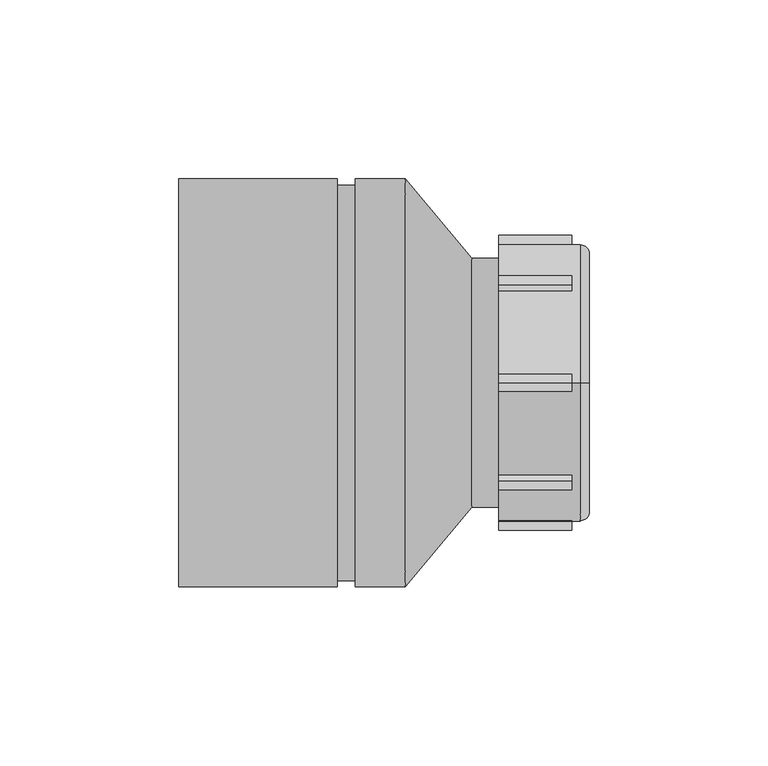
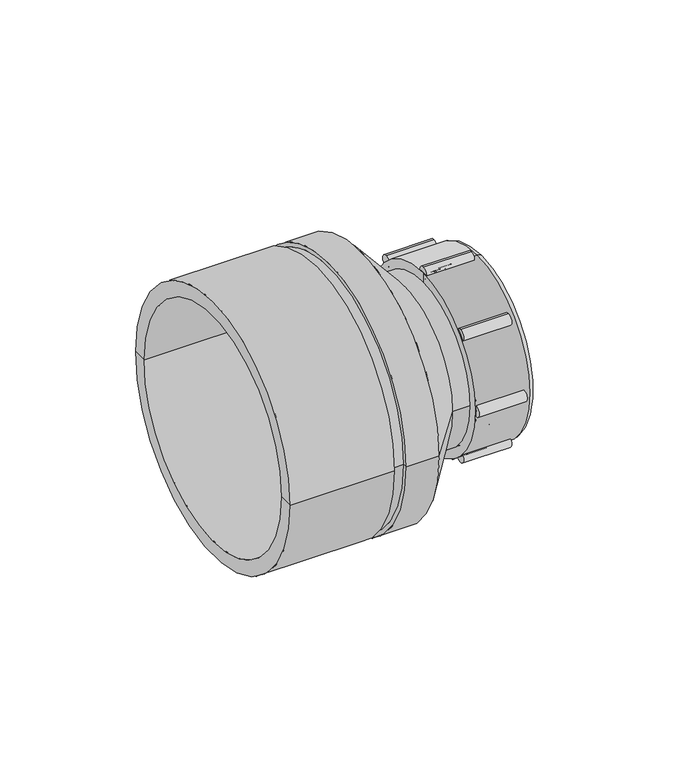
"""IFC4 building model written with IfcOpenShell, lengths in millimetres: pipe fitting geometry, Durapipe_PipeFitting_VulcatheneMechanical_ReducingCoupler_W39 : W3943_4Inxh x 3Inch_102mm x 76mm."""

from ifc_helpers import new_model, si_unit, point, frame, frame_2d, origin, place, context, project, spatial, polyline, circle_curve, ellipse_curve, trimmed, segment, composite_curve, outline, extrude, source, transform, mapped, element, save
from ifc_brep_helpers import plane_surface, cylinder_surface, revolved_surface, advanced_brep


def pipe_fitting_6652a40b(model_context):
    return source(origin(), model_context, "Body", "SolidModel", [
        advanced_brep(
        [(55.85, 22.839549, 22.839549), (55.85, 21.2839141, 21.2839141), (55.85, -21.2839141, -21.2839141), (55.85, -22.839549, -22.839549), (50.25, 22.3445743, 22.3445743), (50.25, -22.3445743, -22.3445743), (48.85, 21.9203102, 21.9203102), (50.25, 21.9203102, 21.9203102), (50.25, -21.9203102, -21.9203102), (48.85, -21.9203102, -21.9203102), (48.85, -20.9303607, -20.9303607), (48.85, 20.9303607, 20.9303607), (51.15, -20.9303607, -20.9303607), (51.15, 20.9303607, 20.9303607), (51.15, -20.647518, -20.647518), (51.15, 20.647518, 20.647518), (53.35, 21.2839141, 21.2839141), (53.35, 20.647518, 20.647518), (53.35, -20.647518, -20.647518), (53.35, -21.2839141, -21.2839141)],
        [
            (0, 1),
            (1, 2, circle_curve(frame((55.85, 0.0, 0.0), z_axis=(-1.0, 0.0, 0.0), x_axis=(0.0, -0.7071067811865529, -0.7071067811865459)), 30.1)),
            (2, 3),
            (3, 0, circle_curve(frame((55.85, 0.0, 0.0), z_axis=(1.0, 0.0, 0.0), x_axis=(0.0, -0.7071067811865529, -0.7071067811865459)), 32.3)),
            (2, 1, circle_curve(frame((55.85, 0.0, 0.0), z_axis=(-1.0, 0.0, 0.0), x_axis=(0.0, -0.7071067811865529, -0.7071067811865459)), 30.1)),
            (0, 3, circle_curve(frame((55.85, 0.0, 0.0), z_axis=(1.0, 0.0, 0.0), x_axis=(0.0, -0.7071067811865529, -0.7071067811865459)), 32.3)),
            (4, 0),
            (3, 5),
            (5, 4, circle_curve(frame((50.25, 0.0, 0.0), z_axis=(1.0, 0.0, 0.0), x_axis=(0.0, -0.7071067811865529, -0.7071067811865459)), 31.6)),
            (4, 5, circle_curve(frame((50.25, 0.0, 0.0), z_axis=(1.0, 0.0, 0.0), x_axis=(0.0, -0.7071067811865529, -0.7071067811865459)), 31.6)),
            (6, 7),
            (7, 8, circle_curve(frame((50.25, 0.0, 0.0), z_axis=(-1.0, 0.0, 0.0), x_axis=(0.0, -0.7071067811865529, -0.7071067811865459)), 31.0)),
            (8, 9),
            (9, 6, circle_curve(frame((48.85, 0.0, 0.0), z_axis=(1.0, 0.0, 0.0), x_axis=(0.0, -0.7071067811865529, -0.7071067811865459)), 31.0)),
            (8, 7, circle_curve(frame((50.25, 0.0, 0.0), z_axis=(-1.0, 0.0, 0.0), x_axis=(0.0, -0.7071067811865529, -0.7071067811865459)), 31.0)),
            (6, 9, circle_curve(frame((48.85, 0.0, 0.0), z_axis=(1.0, 0.0, 0.0), x_axis=(0.0, -0.7071067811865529, -0.7071067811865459)), 31.0)),
            (9, 10),
            (10, 11, circle_curve(frame((48.85, 0.0, 0.0), z_axis=(1.0, 0.0, 0.0), x_axis=(0.0, -0.7071067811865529, -0.7071067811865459)), 29.6)),
            (11, 6),
            (11, 10, circle_curve(frame((48.85, 0.0, 0.0), z_axis=(1.0, 0.0, 0.0), x_axis=(0.0, -0.7071067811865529, -0.7071067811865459)), 29.6)),
            (10, 12),
            (12, 13, circle_curve(frame((51.15, 0.0, 0.0), z_axis=(1.0, 0.0, 0.0), x_axis=(0.0, -0.7071067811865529, -0.7071067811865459)), 29.6)),
            (13, 11),
            (13, 12, circle_curve(frame((51.15, 0.0, 0.0), z_axis=(1.0, 0.0, 0.0), x_axis=(0.0, -0.7071067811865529, -0.7071067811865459)), 29.6)),
            (12, 14),
            (14, 15, circle_curve(frame((51.15, 0.0, 0.0), z_axis=(1.0, 0.0, 0.0), x_axis=(0.0, -0.7071067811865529, -0.7071067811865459)), 29.2)),
            (15, 13),
            (15, 14, circle_curve(frame((51.15, 0.0, 0.0), z_axis=(1.0, 0.0, 0.0), x_axis=(0.0, -0.7071067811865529, -0.7071067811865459)), 29.2)),
            (16, 17),
            (17, 18, circle_curve(frame((53.35, 0.0, 0.0), z_axis=(-1.0, 0.0, 0.0), x_axis=(0.0, -0.7071067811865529, -0.7071067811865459)), 29.2)),
            (18, 19),
            (19, 16, circle_curve(frame((53.35, 0.0, 0.0), z_axis=(1.0, 0.0, 0.0), x_axis=(0.0, -0.7071067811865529, -0.7071067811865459)), 30.1)),
            (18, 17, circle_curve(frame((53.35, 0.0, 0.0), z_axis=(-1.0, 0.0, 0.0), x_axis=(0.0, -0.7071067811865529, -0.7071067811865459)), 29.2)),
            (16, 19, circle_curve(frame((53.35, 0.0, 0.0), z_axis=(1.0, 0.0, 0.0), x_axis=(0.0, -0.7071067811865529, -0.7071067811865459)), 30.1)),
            (1, 16),
            (19, 2),
            (14, 18),
            (17, 15),
            (5, 8),
            (7, 4),
        ],
        [
            plane_surface(frame((55.85, 0.0, 0.0), z_axis=(1.0, 0.0, 0.0), x_axis=(0.0, -0.707106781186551, -0.707106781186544))),
            revolved_surface(polyline([(55.85, -22.839549, -22.839549), (50.25, -22.3445743, -22.3445743)]), (60.85, 0.0, 0.0), (-1.0000000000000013, 0.0, 0.0)),
            cylinder_surface(frame((46.7793443, 0.0, 0.0), z_axis=(-1.0000000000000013, 0.0, 0.0), x_axis=(0.0, -0.7071067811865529, -0.7071067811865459)), 31.0),
            plane_surface(frame((48.85, 0.0, 0.0), z_axis=(-1.0, 0.0, 0.0), x_axis=(0.0, -0.707106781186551, -0.707106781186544))),
            revolved_surface(polyline([(48.85000000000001, -20.930360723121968, -20.93036072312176), (51.15000000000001, -20.930360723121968, -20.93036072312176)]), (45.357009, 0.0, 0.0), (-1.0000000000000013, 0.0, 0.0)),
            plane_surface(frame((51.15, 0.0, 0.0), z_axis=(-1.0, 0.0, 0.0), x_axis=(0.0, -0.707106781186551, -0.707106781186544))),
            plane_surface(frame((53.35, 0.0, 0.0), z_axis=(1.0, 0.0, 0.0), x_axis=(0.0, -0.707106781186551, -0.707106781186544))),
            revolved_surface(polyline([(53.34999999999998, -21.283914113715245, -21.28391411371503), (55.84999999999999, -21.283914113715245, -21.28391411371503)]), (60.85, 0.0, 0.0), (-1.0000000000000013, 0.0, 0.0)),
            revolved_surface(polyline([(51.149999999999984, -20.647518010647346, -20.64751801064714), (53.349999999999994, -20.647518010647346, -20.64751801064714)]), (57.4161924, 0.0, 0.0), (-1.0000000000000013, 0.0, 0.0)),
            plane_surface(frame((50.25, 0.0, 0.0), z_axis=(-1.0, 0.0, 0.0), x_axis=(0.0, -0.707106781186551, -0.707106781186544))),
        ],
        [
            (0, [[1, 2, 3, 4]]),
            (0, [[5, -1, 6, -3]]),
            (1, [[7, -4, 8, 9]]),
            (1, [[-8, -6, -7, 10]]),
            (2, [[11, 12, 13, 14]]),
            (2, [[15, -11, 16, -13]]),
            (3, [[17, 18, 19, -14]]),
            (3, [[-19, 20, -17, -16]]),
            (4, [[-18, 21, 22, 23]]),
            (4, [[24, -21, -20, -23]]),
            (5, [[25, 26, 27, -22]]),
            (5, [[-27, 28, -25, -24]]),
            (6, [[29, 30, 31, 32]]),
            (6, [[-31, 33, -29, 34]]),
            (7, [[35, -32, 36, -2]]),
            (7, [[-36, -34, -35, -5]]),
            (8, [[-26, 37, -30, 38]]),
            (8, [[-33, -37, -28, -38]]),
            (9, [[39, -12, 40, -9]]),
            (9, [[-40, -15, -39, -10]]),
        ],
    ),
        advanced_brep(
        [(34.35, 0.0, 38.8), (57.25, 0.0, 38.8), (57.25, 0.0, -38.8), (34.35, 0.0, -38.8), (34.35, 0.0, 33.0), (34.35, 0.0, -33.0), (59.75, 0.0, 36.3), (59.75, 0.0, 31.0), (59.75, 0.0, -31.0), (59.75, 0.0, -36.3), (55.85, 0.0, 33.0), (55.85, 0.0, -33.0), (55.85, 0.0, 31.0), (55.85, 0.0, -31.0)],
        [
            (0, 1),
            (1, 2, circle_curve(frame((57.25, 0.0, 0.0), z_axis=(-1.0, 0.0, 0.0), x_axis=(0.0, 0.0, -1.0000000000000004)), 38.8)),
            (2, 3),
            (3, 0, circle_curve(frame((34.35, 0.0, 0.0), z_axis=(1.0, 0.0, 0.0), x_axis=(0.0, 0.0, -1.0000000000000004)), 38.8)),
            (2, 1, circle_curve(frame((57.25, 0.0, 0.0), z_axis=(-1.0, 0.0, 0.0), x_axis=(0.0, 0.0, -1.0000000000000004)), 38.8)),
            (0, 3, circle_curve(frame((34.35, 0.0, 0.0), z_axis=(1.0, 0.0, 0.0), x_axis=(0.0, 0.0, -1.0000000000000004)), 38.8)),
            (4, 0),
            (3, 5),
            (5, 4, circle_curve(frame((34.35, 0.0, 0.0), z_axis=(1.0, 0.0, 0.0), x_axis=(0.0, 0.0, -1.0000000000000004)), 33.0)),
            (4, 5, circle_curve(frame((34.35, 0.0, 0.0), z_axis=(1.0, 0.0, 0.0), x_axis=(0.0, 0.0, -1.0000000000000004)), 33.0)),
            (6, 7),
            (7, 8, circle_curve(frame((59.75, 0.0, 0.0), z_axis=(-1.0, 0.0, 0.0), x_axis=(0.0, 0.0, -1.0000000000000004)), 31.0)),
            (8, 9),
            (9, 6, circle_curve(frame((59.75, 0.0, 0.0), z_axis=(1.0, 0.0, 0.0), x_axis=(0.0, 0.0, -1.0000000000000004)), 36.3)),
            (8, 7, circle_curve(frame((59.75, 0.0, 0.0), z_axis=(-1.0, 0.0, 0.0), x_axis=(0.0, 0.0, -1.0000000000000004)), 31.0)),
            (6, 9, circle_curve(frame((59.75, 0.0, 0.0), z_axis=(1.0, 0.0, 0.0), x_axis=(0.0, 0.0, -1.0000000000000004)), 36.3)),
            (1, 6, circle_curve(frame((57.25, 0.0, 36.3), z_axis=(0.0, 1.0000000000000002, 0.0), x_axis=(1.0000000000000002, 0.0, 0.0)), 2.5)),
            (9, 2, circle_curve(frame((57.25, 0.0, -36.3), z_axis=(0.0, 1.0000000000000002, 0.0), x_axis=(1.0000000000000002, 0.0, 0.0)), 2.5)),
            (10, 4),
            (5, 11),
            (11, 10, circle_curve(frame((55.85, 0.0, 0.0), z_axis=(1.0, 0.0, 0.0), x_axis=(0.0, 0.0, -1.0000000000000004)), 33.0)),
            (10, 11, circle_curve(frame((55.85, 0.0, 0.0), z_axis=(1.0, 0.0, 0.0), x_axis=(0.0, 0.0, -1.0000000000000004)), 33.0)),
            (12, 10),
            (11, 13),
            (13, 12, circle_curve(frame((55.85, 0.0, 0.0), z_axis=(1.0, 0.0, 0.0), x_axis=(0.0, 0.0, -1.0000000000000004)), 31.0)),
            (12, 13, circle_curve(frame((55.85, 0.0, 0.0), z_axis=(1.0, 0.0, 0.0), x_axis=(0.0, 0.0, -1.0000000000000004)), 31.0)),
            (7, 12),
            (13, 8),
        ],
        [
            cylinder_surface(frame((1620.5518184, 0.0, 0.0), z_axis=(-1.0000000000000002, 0.0, 0.0), x_axis=(0.0, 0.0, -1.0000000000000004)), 38.8),
            plane_surface(frame((34.35, 0.0, 0.0), z_axis=(-1.0, 0.0, 0.0), x_axis=(0.0, 0.0, -1.0))),
            plane_surface(frame((59.75, 0.0, 0.0), z_axis=(1.0, 0.0, 0.0), x_axis=(0.0, 0.0, -1.0))),
            revolved_surface(trimmed(ellipse_curve(frame((57.25, 0.0, -36.3), z_axis=(0.0, 1.0000000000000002, 0.0), x_axis=(1.0000000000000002, 0.0, 0.0)), 2.5, 2.5), [point((59.75, 0.0, -36.3))], [point((57.25, 0.0, -38.8))], True, "CARTESIAN"), (1620.5518184, 0.0, 0.0), (-1.0000000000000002, 0.0, 0.0)),
            revolved_surface(polyline([(34.349999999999, 0.0, -33.000000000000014), (55.849999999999, 0.0, -33.000000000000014)]), (1620.5518184, 0.0, 0.0), (-1.0000000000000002, 0.0, 0.0)),
            plane_surface(frame((55.85, 0.0, 0.0), z_axis=(-1.0, 0.0, 0.0), x_axis=(0.0, 0.0, -1.0))),
            revolved_surface(polyline([(55.849999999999, 0.0, -31.000000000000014), (59.74999999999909, 0.0, -31.000000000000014)]), (1620.5518184, 0.0, 0.0), (-1.0000000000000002, 0.0, 0.0)),
        ],
        [
            (0, [[1, 2, 3, 4]]),
            (0, [[-3, 5, -1, 6]]),
            (1, [[7, -4, 8, 9]]),
            (1, [[-8, -6, -7, 10]]),
            (2, [[11, 12, 13, 14]]),
            (2, [[-13, 15, -11, 16]]),
            (3, [[17, -14, 18, -2]]),
            (3, [[-18, -16, -17, -5]]),
            (4, [[19, -9, 20, 21]]),
            (4, [[-20, -10, -19, 22]]),
            (5, [[23, -21, 24, 25]]),
            (5, [[-24, -22, -23, 26]]),
            (6, [[27, -25, 28, -12]]),
            (6, [[-28, -26, -27, -15]]),
        ],
    ),
        extrude(outline(composite_curve([segment(trimmed(circle_curve(frame_2d((-38.8, 0.0)), 2.5), [point((-38.8, 2.5))], [point((-38.8, -2.5))], False, "CARTESIAN"), True, "CONTINUOUS"), segment(trimmed(circle_curve(frame_2d((-38.8, 0.0)), 2.5), [point((-38.8, -2.5))], [point((-38.8, 2.5))], False, "CARTESIAN"), True, "CONTINUOUS")], self_intersect=False)), frame((34.35, 0.0, 0.0), z_axis=(1.0, 0.0, 0.0), x_axis=(0.0, 1.0, 0.0)), (0.0, 0.0, 1.0), 20.4),
        extrude(outline(composite_curve([segment(trimmed(circle_curve(frame_2d((-27.4357431, -27.4357431)), 2.5), [point((-27.4357431, -24.9357431))], [point((-27.4357431, -29.9357431))], False, "CARTESIAN"), True, "CONTINUOUS"), segment(trimmed(circle_curve(frame_2d((-27.4357431, -27.4357431)), 2.5), [point((-27.4357431, -29.9357431))], [point((-27.4357431, -24.9357431))], False, "CARTESIAN"), True, "CONTINUOUS")], self_intersect=False)), frame((34.35, 0.0, 0.0), z_axis=(1.0, 0.0, 0.0), x_axis=(0.0, 1.0, 0.0)), (0.0, 0.0, 1.0), 20.4),
        extrude(outline(composite_curve([segment(trimmed(circle_curve(frame_2d((0.0, -38.8)), 2.5), [point((0.0, -36.3))], [point((0.0, -41.3))], False, "CARTESIAN"), True, "CONTINUOUS"), segment(trimmed(circle_curve(frame_2d((0.0, -38.8)), 2.5), [point((0.0, -41.3))], [point((0.0, -36.3))], False, "CARTESIAN"), True, "CONTINUOUS")], self_intersect=False)), frame((34.35, 0.0, 0.0), z_axis=(1.0, 0.0, 0.0), x_axis=(0.0, 1.0, 0.0)), (0.0, 0.0, 1.0), 20.4),
        extrude(outline(composite_curve([segment(trimmed(circle_curve(frame_2d((27.4357431, -27.4357431)), 2.5), [point((27.4357431, -24.9357431))], [point((27.4357431, -29.9357431))], False, "CARTESIAN"), True, "CONTINUOUS"), segment(trimmed(circle_curve(frame_2d((27.4357431, -27.4357431)), 2.5), [point((27.4357431, -29.9357431))], [point((27.4357431, -24.9357431))], False, "CARTESIAN"), True, "CONTINUOUS")], self_intersect=False)), frame((34.35, 0.0, 0.0), z_axis=(1.0, 0.0, 0.0), x_axis=(0.0, 1.0, 0.0)), (0.0, 0.0, 1.0), 20.4),
        extrude(outline(composite_curve([segment(trimmed(circle_curve(frame_2d((38.8, 0.0)), 2.5), [point((38.8, 2.5))], [point((38.8, -2.5))], False, "CARTESIAN"), True, "CONTINUOUS"), segment(trimmed(circle_curve(frame_2d((38.8, 0.0)), 2.5), [point((38.8, -2.5))], [point((38.8, 2.5))], False, "CARTESIAN"), True, "CONTINUOUS")], self_intersect=False)), frame((34.35, 0.0, 0.0), z_axis=(1.0, 0.0, 0.0), x_axis=(0.0, 1.0, 0.0)), (0.0, 0.0, 1.0), 20.4),
        extrude(outline(composite_curve([segment(trimmed(circle_curve(frame_2d((27.4357431, 27.4357431)), 2.5), [point((27.4357431, 29.9357431))], [point((27.4357431, 24.9357431))], False, "CARTESIAN"), True, "CONTINUOUS"), segment(trimmed(circle_curve(frame_2d((27.4357431, 27.4357431)), 2.5), [point((27.4357431, 24.9357431))], [point((27.4357431, 29.9357431))], False, "CARTESIAN"), True, "CONTINUOUS")], self_intersect=False)), frame((34.35, 0.0, 0.0), z_axis=(1.0, 0.0, 0.0), x_axis=(0.0, 1.0, 0.0)), (0.0, 0.0, 1.0), 20.4),
        extrude(outline(composite_curve([segment(trimmed(circle_curve(frame_2d((0.0, 38.8)), 2.5), [point((0.0, 41.3))], [point((0.0, 36.3))], False, "CARTESIAN"), True, "CONTINUOUS"), segment(trimmed(circle_curve(frame_2d((0.0, 38.8)), 2.5), [point((0.0, 36.3))], [point((0.0, 41.3))], False, "CARTESIAN"), True, "CONTINUOUS")], self_intersect=False)), frame((34.35, 0.0, 0.0), z_axis=(1.0, 0.0, 0.0), x_axis=(0.0, 1.0, 0.0)), (0.0, 0.0, 1.0), 20.4),
        extrude(outline(composite_curve([segment(trimmed(circle_curve(frame_2d((-27.4357431, 27.4357431)), 2.5), [point((-27.4357431, 29.9357431))], [point((-27.4357431, 24.9357431))], False, "CARTESIAN"), True, "CONTINUOUS"), segment(trimmed(circle_curve(frame_2d((-27.4357431, 27.4357431)), 2.5), [point((-27.4357431, 24.9357431))], [point((-27.4357431, 29.9357431))], False, "CARTESIAN"), True, "CONTINUOUS")], self_intersect=False)), frame((34.35, 0.0, 0.0), z_axis=(1.0, 0.0, 0.0), x_axis=(0.0, 1.0, 0.0)), (0.0, 0.0, 1.0), 20.4),
        advanced_brep(
        [(5.78, -50.8, 0.0), (5.78, 50.8, 0.0), (-55.25, 50.8, 0.0), (-55.25, -50.8, 0.0), (27.935567, -26.19375, 0.0), (27.935567, 26.19375, 0.0), (30.9875, -26.19375, 0.0), (30.9875, 26.19375, 0.0), (30.9875, -30.2895, 0.0), (30.9875, 30.2895, 0.0), (36.575, -30.2895, 0.0), (36.575, 30.2895, 0.0), (36.575, -33.8111627, 0.0), (36.575, 33.8111627, 0.0), (35.75, -34.86, 0.0), (35.75, 34.86, 0.0), (26.8785308, -34.86, 0.0), (26.8785308, 34.86, 0.0), (8.175, -57.15, 0.0), (8.175, 57.15, 0.0), (-5.82, -57.15, 0.0), (-5.82, 57.15, 0.0), (-5.82, -55.35, 0.0), (-5.82, 55.35, 0.0), (-10.9, -55.35, 0.0), (-10.9, 55.35, 0.0), (-10.9, -57.15, 0.0), (-10.9, 57.15, 0.0), (-55.25, -57.15, 0.0), (-55.25, 57.15, 0.0)],
        [
            (0, 1, circle_curve(frame((5.78, 0.0, 0.0), z_axis=(1.0, 0.0, 0.0), x_axis=(0.0, 1.0, 0.0)), 50.8)),
            (1, 2),
            (2, 3, circle_curve(frame((-55.25, 0.0, 0.0), z_axis=(-1.0, 0.0, 0.0), x_axis=(0.0, 1.0, 0.0)), 50.8)),
            (3, 0),
            (1, 0, circle_curve(frame((5.78, 0.0, 0.0), z_axis=(1.0, 0.0, 0.0), x_axis=(0.0, 1.0, 0.0)), 50.8)),
            (3, 2, circle_curve(frame((-55.25, 0.0, 0.0), z_axis=(-1.0, 0.0, 0.0), x_axis=(0.0, 1.0, 0.0)), 50.8)),
            (4, 5, circle_curve(frame((27.935567, 0.0, 0.0), z_axis=(1.0, 0.0, 0.0), x_axis=(0.0, 1.0, 0.0)), 26.19375)),
            (5, 1),
            (0, 4),
            (5, 4, circle_curve(frame((27.935567, 0.0, 0.0), z_axis=(1.0, 0.0, 0.0), x_axis=(0.0, 1.0, 0.0)), 26.19375)),
            (6, 7, circle_curve(frame((30.9875, 0.0, 0.0), z_axis=(1.0, 0.0, 0.0), x_axis=(0.0, 1.0, 0.0)), 26.19375)),
            (7, 5),
            (4, 6),
            (7, 6, circle_curve(frame((30.9875, 0.0, 0.0), z_axis=(1.0, 0.0, 0.0), x_axis=(0.0, 1.0, 0.0)), 26.19375)),
            (8, 9, circle_curve(frame((30.9875, 0.0, 0.0), z_axis=(1.0, 0.0, 0.0), x_axis=(0.0, 1.0, 0.0)), 30.2895)),
            (9, 7),
            (6, 8),
            (9, 8, circle_curve(frame((30.9875, 0.0, 0.0), z_axis=(1.0, 0.0, 0.0), x_axis=(0.0, 1.0, 0.0)), 30.2895)),
            (10, 11, circle_curve(frame((36.575, 0.0, 0.0), z_axis=(1.0, 0.0, 0.0), x_axis=(0.0, 1.0, 0.0)), 30.2895)),
            (11, 9),
            (8, 10),
            (11, 10, circle_curve(frame((36.575, 0.0, 0.0), z_axis=(1.0, 0.0, 0.0), x_axis=(0.0, 1.0, 0.0)), 30.2895)),
            (12, 13, circle_curve(frame((36.575, 0.0, 0.0), z_axis=(1.0, 0.0, 0.0), x_axis=(0.0, 1.0, 0.0)), 33.8111627)),
            (13, 11),
            (10, 12),
            (13, 12, circle_curve(frame((36.575, 0.0, 0.0), z_axis=(1.0, 0.0, 0.0), x_axis=(0.0, 1.0, 0.0)), 33.8111627)),
            (14, 15, circle_curve(frame((35.75, 0.0, 0.0), z_axis=(1.0, 0.0, 0.0), x_axis=(0.0, 1.0, 0.0)), 34.86)),
            (15, 13),
            (12, 14),
            (15, 14, circle_curve(frame((35.75, 0.0, 0.0), z_axis=(1.0, 0.0, 0.0), x_axis=(0.0, 1.0, 0.0)), 34.86)),
            (16, 17, circle_curve(frame((26.8785308, 0.0, 0.0), z_axis=(1.0, 0.0, 0.0), x_axis=(0.0, 1.0, 0.0)), 34.86)),
            (17, 15),
            (14, 16),
            (17, 16, circle_curve(frame((26.8785308, 0.0, 0.0), z_axis=(1.0, 0.0, 0.0), x_axis=(0.0, 1.0, 0.0)), 34.86)),
            (18, 19, circle_curve(frame((8.175, 0.0, 0.0), z_axis=(1.0, 0.0, 0.0), x_axis=(0.0, 1.0, 0.0)), 57.15)),
            (19, 17),
            (16, 18),
            (19, 18, circle_curve(frame((8.175, 0.0, 0.0), z_axis=(1.0, 0.0, 0.0), x_axis=(0.0, 1.0, 0.0)), 57.15)),
            (20, 21, circle_curve(frame((-5.82, 0.0, 0.0), z_axis=(1.0, 0.0, 0.0), x_axis=(0.0, 1.0, 0.0)), 57.15)),
            (21, 19),
            (18, 20),
            (21, 20, circle_curve(frame((-5.82, 0.0, 0.0), z_axis=(1.0, 0.0, 0.0), x_axis=(0.0, 1.0, 0.0)), 57.15)),
            (22, 23, circle_curve(frame((-5.82, 0.0, 0.0), z_axis=(1.0, 0.0, 0.0), x_axis=(0.0, 1.0, 0.0)), 55.35)),
            (23, 21),
            (20, 22),
            (23, 22, circle_curve(frame((-5.82, 0.0, 0.0), z_axis=(1.0, 0.0, 0.0), x_axis=(0.0, 1.0, 0.0)), 55.35)),
            (24, 25, circle_curve(frame((-10.9, 0.0, 0.0), z_axis=(1.0, 0.0, 0.0), x_axis=(0.0, 1.0, 0.0)), 55.35)),
            (25, 23),
            (22, 24),
            (25, 24, circle_curve(frame((-10.9, 0.0, 0.0), z_axis=(1.0, 0.0, 0.0), x_axis=(0.0, 1.0, 0.0)), 55.35)),
            (26, 27, circle_curve(frame((-10.9, 0.0, 0.0), z_axis=(1.0, 0.0, 0.0), x_axis=(0.0, 1.0, 0.0)), 57.15)),
            (27, 25),
            (24, 26),
            (27, 26, circle_curve(frame((-10.9, 0.0, 0.0), z_axis=(1.0, 0.0, 0.0), x_axis=(0.0, 1.0, 0.0)), 57.15)),
            (28, 29, circle_curve(frame((-55.25, 0.0, 0.0), z_axis=(1.0, 0.0, 0.0), x_axis=(0.0, 1.0, 0.0)), 57.15)),
            (29, 27),
            (26, 28),
            (29, 28, circle_curve(frame((-55.25, 0.0, 0.0), z_axis=(1.0, 0.0, 0.0), x_axis=(0.0, 1.0, 0.0)), 57.15)),
            (2, 29),
            (28, 3),
        ],
        [
            revolved_surface(polyline([(-55.25, 50.8, 0.0), (5.779999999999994, 50.8, 0.0)]), (-62.5295442, 0.0, 0.0), (-1.0, 0.0, 0.0)),
            revolved_surface(polyline([(5.78, 50.8, 0.0), (27.935567, 26.19375, 0.0)]), (-62.5295442, 0.0, 0.0), (-1.0, 0.0, 0.0)),
            revolved_surface(polyline([(27.935567, 26.19375, 0.0), (30.987500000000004, 26.19375, 0.0)]), (-62.5295442, 0.0, 0.0), (-1.0, 0.0, 0.0)),
            plane_surface(frame((30.9875, 0.0, 0.0), z_axis=(1.0, 0.0, 0.0), x_axis=(0.0, 1.0, 0.0))),
            revolved_surface(polyline([(30.987500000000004, 30.2895, 0.0), (36.574999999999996, 30.2895, 0.0)]), (-62.5295442, 0.0, 0.0), (-1.0, 0.0, 0.0)),
            plane_surface(frame((36.575, 0.0, 0.0), z_axis=(1.0, 0.0, 0.0), x_axis=(0.0, 1.0, 0.0))),
            revolved_surface(polyline([(36.575, 33.8111627, 0.0), (35.75, 34.86, 0.0)]), (-62.5295442, 0.0, 0.0), (-1.0, 0.0, 0.0)),
            cylinder_surface(frame((-62.5295442, 0.0, 0.0), z_axis=(-1.0, 0.0, 0.0), x_axis=(0.0, 1.0, 0.0)), 34.86),
            revolved_surface(polyline([(26.8785308, 34.86, 0.0), (8.175, 57.15, 0.0)]), (-62.5295442, 0.0, 0.0), (-1.0, 0.0, 0.0)),
            cylinder_surface(frame((-62.5295442, 0.0, 0.0), z_axis=(-1.0, 0.0, 0.0), x_axis=(0.0, 1.0, 0.0)), 57.15),
            plane_surface(frame((-5.82, 0.0, 0.0), z_axis=(-1.0, 0.0, 0.0), x_axis=(0.0, 1.0, 0.0))),
            cylinder_surface(frame((-62.5295442, 0.0, 0.0), z_axis=(-1.0, 0.0, 0.0), x_axis=(0.0, 1.0, 0.0)), 55.35),
            plane_surface(frame((-10.9, 0.0, 0.0), z_axis=(1.0, 0.0, 0.0), x_axis=(0.0, 1.0, 0.0))),
            plane_surface(frame((-55.25, 0.0, 0.0), z_axis=(-1.0, 0.0, 0.0), x_axis=(0.0, 1.0, 0.0))),
        ],
        [
            (0, [[1, 2, 3, 4]]),
            (0, [[5, -4, 6, -2]]),
            (1, [[7, 8, -1, 9]]),
            (1, [[10, -9, -5, -8]]),
            (2, [[11, 12, -7, 13]]),
            (2, [[14, -13, -10, -12]]),
            (3, [[15, 16, -11, 17]]),
            (3, [[18, -17, -14, -16]]),
            (4, [[19, 20, -15, 21]]),
            (4, [[22, -21, -18, -20]]),
            (5, [[23, 24, -19, 25]]),
            (5, [[26, -25, -22, -24]]),
            (6, [[27, 28, -23, 29]]),
            (6, [[30, -29, -26, -28]]),
            (7, [[31, 32, -27, 33]]),
            (7, [[34, -33, -30, -32]]),
            (8, [[35, 36, -31, 37]]),
            (8, [[38, -37, -34, -36]]),
            (9, [[39, 40, -35, 41]]),
            (9, [[42, -41, -38, -40]]),
            (10, [[43, 44, -39, 45]]),
            (10, [[46, -45, -42, -44]]),
            (11, [[47, 48, -43, 49]]),
            (11, [[50, -49, -46, -48]]),
            (12, [[51, 52, -47, 53]]),
            (12, [[54, -53, -50, -52]]),
            (9, [[55, 56, -51, 57]]),
            (9, [[58, -57, -54, -56]]),
            (13, [[-3, 59, -55, 60]]),
            (13, [[-6, -60, -58, -59]]),
        ],
    ),
    ])


if __name__ == "__main__":
    model = new_model("IFC4")
    model_context = context("Model", 3, world=origin())
    ifc_project = project(units=[si_unit("LENGTHUNIT", "METRE", prefix="MILLI")], contexts=[model_context])
    site = spatial("IfcSite", under=ifc_project)
    building = spatial("IfcBuilding", under=site)
    placement = place(None, origin())
    pipe_fitting_shape = pipe_fitting_6652a40b(model_context)
    element("IfcPipeFitting", 1, ObjectType="Durapipe_PipeFitting_VulcatheneMechanical_ReducingCoupler_W39 : W3943_4Inxh x 3Inch_102mm x 76mm", at=placement, inside=building, context=model_context, shape_type="MappedRepresentation", body=[
        mapped(pipe_fitting_shape, transform((0.0, 0.0, 0.0), x_axis=(1.0, 0.0, 0.0), y_axis=(0.0, 1.0, 0.0), z_axis=(0.0, 0.0, 1.0))),
    ])
    save(model, "model.ifc")
